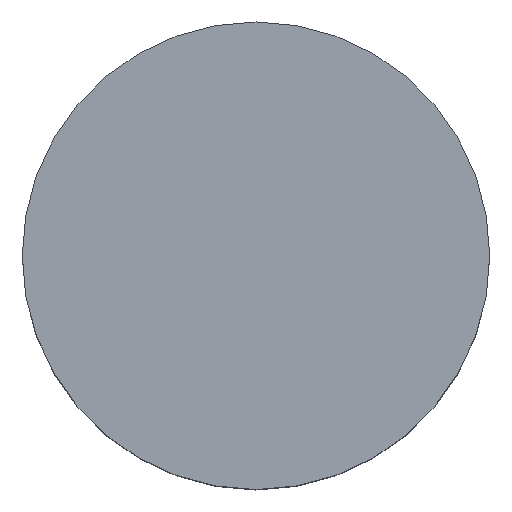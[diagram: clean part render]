
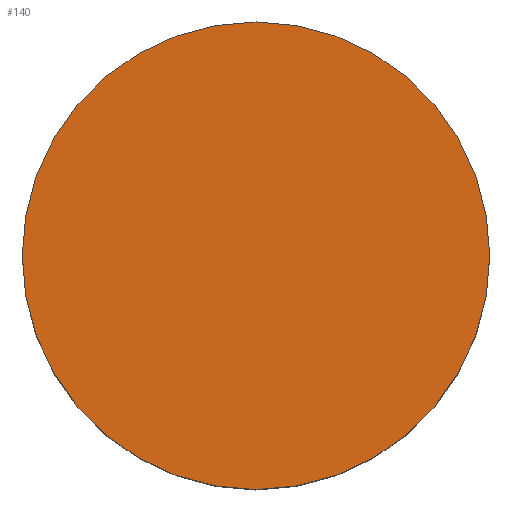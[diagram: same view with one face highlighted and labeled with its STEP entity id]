
A CAD part, top view. The second image highlights one B-rep face of the part: STEP entity #140.
In plain terms, the highlighted planar face has unit normal (0, 0, 1).
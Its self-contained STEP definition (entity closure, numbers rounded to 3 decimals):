
#24 = VERTEX_POINT('',#25);
#25 = CARTESIAN_POINT('',(3.5,0.,20.));
#32 = CYLINDRICAL_SURFACE('',#33,3.5);
#33 = AXIS2_PLACEMENT_3D('',#34,#35,#36);
#34 = CARTESIAN_POINT('',(0.,0.,16.));
#35 = DIRECTION('',(-0.,-0.,-1.));
#36 = DIRECTION('',(1.,0.,0.));
#51 = EDGE_CURVE('',#24,#24,#52,.T.);
#52 = SURFACE_CURVE('',#53,(#58,#65),.PCURVE_S1.);
#53 = CIRCLE('',#54,3.5);
#54 = AXIS2_PLACEMENT_3D('',#55,#56,#57);
#55 = CARTESIAN_POINT('',(0.,0.,20.));
#56 = DIRECTION('',(0.,0.,1.));
#57 = DIRECTION('',(1.,0.,0.));
#58 = PCURVE('',#32,#59);
#59 = DEFINITIONAL_REPRESENTATION('',(#60),#64);
#60 = LINE('',#61,#62);
#61 = CARTESIAN_POINT('',(-0.,-4.));
#62 = VECTOR('',#63,1.);
#63 = DIRECTION('',(-1.,0.));
#64 = ( GEOMETRIC_REPRESENTATION_CONTEXT(2) 
PARAMETRIC_REPRESENTATION_CONTEXT() REPRESENTATION_CONTEXT('2D SPACE',''
  ) );
#65 = PCURVE('',#66,#71);
#66 = PLANE('',#67);
#67 = AXIS2_PLACEMENT_3D('',#68,#69,#70);
#68 = CARTESIAN_POINT('',(0.,0.,20.));
#69 = DIRECTION('',(0.,0.,1.));
#70 = DIRECTION('',(1.,0.,-0.));
#71 = DEFINITIONAL_REPRESENTATION('',(#72),#76);
#72 = CIRCLE('',#73,3.5);
#73 = AXIS2_PLACEMENT_2D('',#74,#75);
#74 = CARTESIAN_POINT('',(0.,0.));
#75 = DIRECTION('',(1.,0.));
#76 = ( GEOMETRIC_REPRESENTATION_CONTEXT(2) 
PARAMETRIC_REPRESENTATION_CONTEXT() REPRESENTATION_CONTEXT('2D SPACE',''
  ) );
#140 = ADVANCED_FACE('',(#141),#66,.T.);
#141 = FACE_BOUND('',#142,.T.);
#142 = EDGE_LOOP('',(#143));
#143 = ORIENTED_EDGE('',*,*,#51,.T.);
